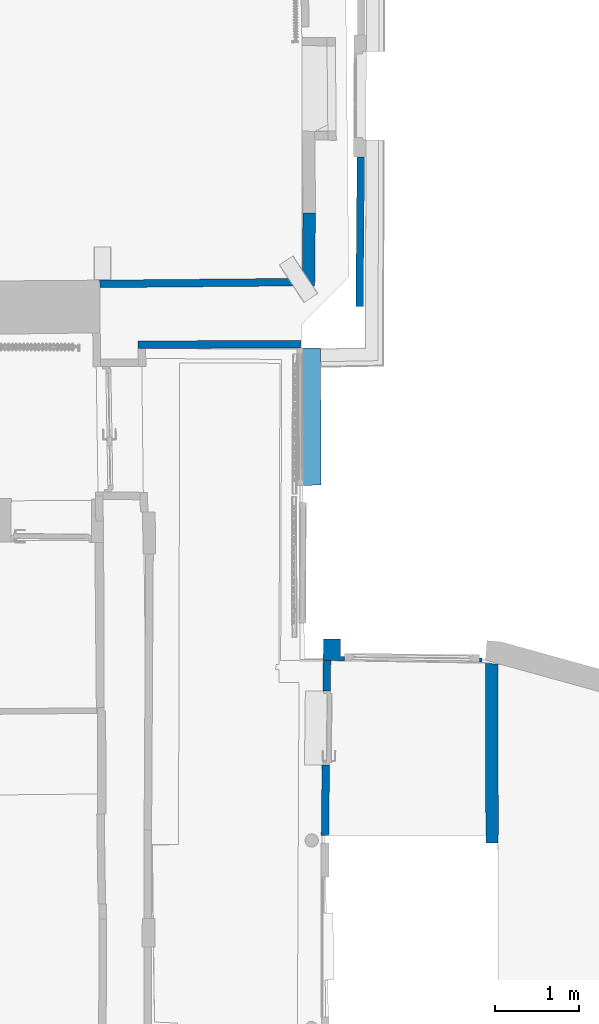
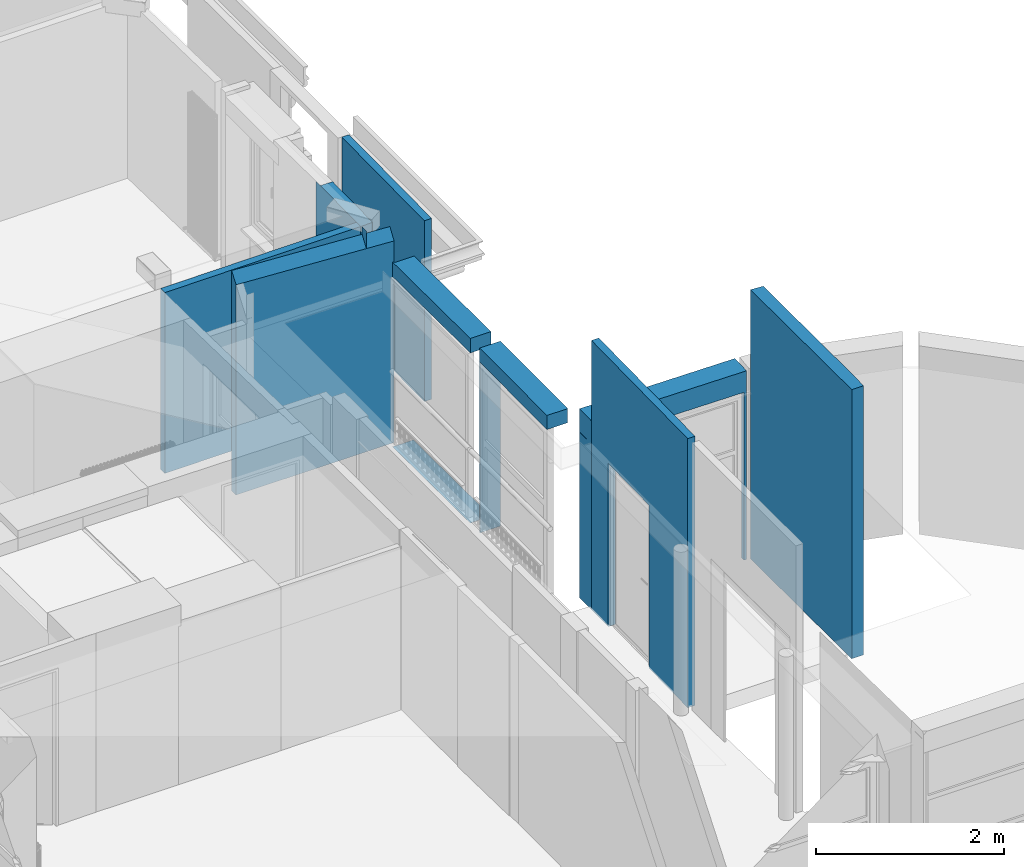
# One storey, part 18 of 72: 9 walls, 4 openings.
"""IFC2X3 building model written with IfcOpenShell, lengths in centimetres."""

from ifc_helpers import new_model, entity, si_unit, converted_unit, direction, frame, origin, origin_with_axes, origin_2d_with_axis, place, context, subcontext, project, spatial, polyline, rectangle, outline, extrude, clip, bounded_halfspace, faceted_brep, shape, material, layer, layer_set, layer_usage, type_object, element, save


model = new_model("IFC2X3")

# Units and contexts
model_context = context("Model", 3, precision=0.0001, world=origin(), true_north=direction((0.225632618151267, 0.974212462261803, 0.0)))
body_context = subcontext(model_context, "Body", "Model", "MODEL_VIEW")
footprint_context = subcontext(model_context, "FootPrint", "Model", "MODEL_VIEW")
profile_context = subcontext(model_context, "Profile", "Model", "MODEL_VIEW")
ifc_project = project(units=[si_unit("LENGTHUNIT", "METRE", prefix="CENTI"), si_unit("AREAUNIT", "SQUARE_METRE", prefix="CENTI"), si_unit("VOLUMEUNIT", "CUBIC_METRE", prefix="CENTI"), converted_unit("PLANEANGLEUNIT", "DEGREE", entity("IfcRatioMeasure", 0.0174532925), si_unit("PLANEANGLEUNIT", "RADIAN"), dimensions=[0, 0, 0, 0, 0, 0, 0])], contexts=[model_context])

# Site, building, storey
site_placement = place(None, origin_with_axes())
site = spatial("IfcSite", under=ifc_project, at=site_placement, Name="Default Site", CompositionType="ELEMENT")
building_placement = place(site_placement, origin_with_axes())
building = spatial("IfcBuilding", under=site, at=building_placement, Name="Default Building", CompositionType="ELEMENT")
storey_placement = place(building_placement, frame((0.0, 0.0, 853.910374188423), z_axis=(0.0, 0.0, 1.0), x_axis=(1.0, 0.0, 0.0)))
storey = spatial("IfcBuildingStorey", under=building, at=storey_placement, Name="Niveau 2", CompositionType="ELEMENT", Elevation=853.910374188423)

# Wall, opening
ifc_material = material(Name="<aucun>")
ifc_layer_1 = layer(ifc_material, 26.0)
ifc_layer_set_1 = layer_set([ifc_layer_1], Name="default")
ifc_layer_usage_1 = layer_usage(ifc_layer_set_1, "AXIS2", "POSITIVE", -13.0)
wall_type_1 = type_object("IfcWallType", Name="default 260", PredefinedType="NOTDEFINED", material=ifc_layer_set_1)
wall_1_placement = place(storey_placement, frame((1291.15030565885, -210.44632109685, 7.8159700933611e-12), z_axis=(0.0, 0.0, 1.0), x_axis=(-0.999951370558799, 0.00986187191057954, 0.0)))
wall_1 = element("IfcWallStandardCase", 1, at=wall_1_placement, inside=storey, type_object=wall_type_1, material=ifc_layer_usage_1, Name="Enveloppe 537553", context=body_context, shape_type="Clipping", body=[
    clip(extrude(rectangle(XDim=26.0000371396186, YDim=189.785412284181, at=origin_2d_with_axis()), frame((96.6682236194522, -0.000186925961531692, 1.77635683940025e-13), z_axis=(0.0, 0.0, 1.0), x_axis=(1.40878318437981e-08, -1.0, 0.0)), (0.0, 0.0, 1.0), 244.999999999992), bounded_halfspace(frame((191.560929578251, 13.0000000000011, 214.999999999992), z_axis=(0.0, 0.0, -1.0), x_axis=(-1.0, 8.65800486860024e-14, 0.0)), True, frame((191.560929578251, 13.0000000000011, 214.999999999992), z_axis=(0.0, 0.0, 1.0), x_axis=(1.0, 0.0, 0.0)), polyline([(-0.150318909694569, -26.0), (1.77635683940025e-13, -26.0), (0.0, 0.0), (-0.0999999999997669, -4.44089209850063e-14), (-0.150318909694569, -26.0)]))),
])
opening_1_placement = place(wall_1_placement, frame((-1.77351466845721e-11, -2.8421709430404e-14, 3.5527136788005e-13), z_axis=(0.0, 0.0, 1.0), x_axis=(-1.0, -5.93969318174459e-15, 0.0)))
cartesian_point_1 = entity("IfcCartesianPoint", [0.0, 0.0, 218.0])
cartesian_point_2 = entity("IfcCartesianPoint", [-171.19581333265, -13.0])
element("IfcOpeningElement", 2, at=opening_1_placement, cuts=wall_1, Name="4294966493_11", ObjectType="Opening", shapes=[
    shape(body_context, "Body", "Brep", [faceted_brep([(-5.00004530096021, -32.9999935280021, 218.000007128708), (-166.195818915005, -32.9999935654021, 218.000007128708), (-166.195818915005, -32.9999935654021, -2.33888705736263e-05), (-5.00004530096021, -32.9999935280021, -2.33888705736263e-05), (2.5435651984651e-05, 32.9999991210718, -2.33888705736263e-05), (-171.195795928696, 32.9999990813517, -2.33888705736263e-05), (-171.195795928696, 32.9999990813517, 218.000007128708), (2.5435651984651e-05, 32.9999991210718, 218.000007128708), (-5.00004530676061, -7.99999300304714, -2.33888705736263e-05), (-5.00004530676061, -7.99999300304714, 218.000007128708), (-4.99997192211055, -7.99999300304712, 218.000007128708), (-4.99997192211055, -7.99999300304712, -2.33888705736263e-05), (4.15408170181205e-06, -7.99999300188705, -2.33888705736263e-05), (4.15408170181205e-06, -7.99999300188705, 218.000007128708), (4.15408170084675e-06, -7.99998884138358, 218.000007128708), (4.15408170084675e-06, -7.99998884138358, -2.33888705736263e-05), (4.14456904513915e-06, 32.9999991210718, -2.33888705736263e-05), (4.14456904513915e-06, 32.9999991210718, 218.000007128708), (-166.195818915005, -33.0000058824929, -2.33888705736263e-05), (-166.195840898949, -8.00000629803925, -2.33888705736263e-05), (-171.195816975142, -8.00001045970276, -2.33888705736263e-05), (-171.195795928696, 33.0000013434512, -2.33888705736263e-05), (-166.195818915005, -33.0000058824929, 218.000007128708), (-166.195818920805, -8.00000629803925, 218.000007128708), (-166.195818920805, -8.00000629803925, -2.33888705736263e-05), (-166.195840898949, -8.00000629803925, 218.000007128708), (-171.195816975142, -8.00000629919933, 218.000007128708), (-171.195816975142, -8.00000629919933, -2.33888705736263e-05), (-171.195816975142, -8.00001045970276, 218.000007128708), (-171.195816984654, 33.0000013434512, 218.000007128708), (-171.195816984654, 33.0000013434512, -2.33888705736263e-05), (-171.195795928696, 33.0000013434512, 218.000007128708)], [[[0, 1, 2, 3]], [[4, 5, 6, 7]], [[0, 3, 8, 9]], [[10, 11, 12, 13]], [[14, 15, 16, 17]], [[3, 18, 19, 20, 21, 4, 15, 11]], [[18, 22, 23, 24]], [[19, 25, 26, 27]], [[20, 28, 29, 30]], [[10, 14, 7, 31, 28, 25, 22, 0]]])]),
    shape(profile_context, "Profile", "GeometricCurveSet", [entity("IfcGeometricCurveSet", [entity("IfcPolyline", [cartesian_point_1, entity("IfcCartesianPoint", [0.0, 0.0, 0.0]), entity("IfcCartesianPoint", [-171.19581333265, -2.22044604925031e-14, 0.0]), entity("IfcCartesianPoint", [-171.19581333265, -2.22044604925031e-14, 218.0]), cartesian_point_1])])]),
    shape(footprint_context, "FootPrint", "GeometricCurveSet", [entity("IfcGeometricCurveSet", [entity("IfcPolyline", [cartesian_point_2, entity("IfcCartesianPoint", [0.0, -13.0]), entity("IfcCartesianPoint", [1.77635683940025e-13, 13.0]), entity("IfcCartesianPoint", [-171.19581333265, 13.0]), cartesian_point_2])])]),
])

# Walls
ifc_layer_2 = layer(ifc_material, 9.0)
ifc_layer_set_2 = layer_set([ifc_layer_2], Name="default")
ifc_layer_usage_2 = layer_usage(ifc_layer_set_2, "AXIS2", "POSITIVE", -4.5)
wall_type_2 = type_object("IfcWallType", Name="default 90", PredefinedType="NOTDEFINED", material=ifc_layer_set_2)
wall_2_placement = place(storey_placement, frame((887.191708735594, 155.93875116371, -1.95399252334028e-11), z_axis=(0.0, 0.0, 1.0), x_axis=(0.999997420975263, 0.00227113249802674, 0.0)))
solid = clip(clip(clip(clip(clip(clip(clip(clip(extrude(outline(polyline([(-9.22474455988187, 4.49999999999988), (-9.00273775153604, -4.50000000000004), (185.428438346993, -4.49999999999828), (185.520402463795, 4.50000000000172), (-9.22474455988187, 4.49999999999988)])), frame((0.0, 0.0, 1.97175609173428e-11), z_axis=(0.0, 0.0, 1.0), x_axis=(1.0, 0.0, 0.0)), (0.0, 0.0, 1.0), 286.44925318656), bounded_halfspace(frame((-9.22474455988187, 4.4999999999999, 286.449253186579), z_axis=(-0.032719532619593, 0.825914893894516, -0.562844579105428), x_axis=(0.998314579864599, 5.7293579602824e-15, -0.0580344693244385)), True, frame((-9.22474455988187, 4.4999999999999, 286.449253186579), z_axis=(0.0, 0.0, 1.0), x_axis=(1.0, 0.0, 0.0)), polyline([(1.77635683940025e-13, 0.0), (0.222006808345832, -8.9999999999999), (3.13726053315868, -8.99999999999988), (3.26087498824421, 4.44089209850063e-14), (1.77635683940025e-13, 0.0)]))), bounded_halfspace(frame((151.31113894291, -2.18897963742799, 267.301539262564), z_axis=(-0.032719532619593, 0.825914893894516, -0.562844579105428), x_axis=(-0.997237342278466, 0.010596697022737, 0.0735213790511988)), True, frame((151.31113894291, -2.18897963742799, 267.301539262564), z_axis=(0.0, 0.0, 1.0), x_axis=(1.0, 0.0, 0.0)), polyline([(-0.00436527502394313, -2.31102036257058), (34.1172994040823, -2.31102036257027), (34.137207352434, -0.362743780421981), (1.77635683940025e-13, 0.0), (-0.00436527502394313, -2.31102036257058)]))), bounded_halfspace(frame((151.382216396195, 4.50000000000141, 277.112777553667), z_axis=(-0.032719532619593, 0.825914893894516, -0.562844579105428), x_axis=(0.00575585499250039, 0.563292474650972, 0.826237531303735)), True, frame((151.382216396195, 4.50000000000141, 277.112777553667), z_axis=(0.0, 0.0, 1.0), x_axis=(1.0, 0.0, 0.0)), polyline([(-0.0710774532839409, -6.6889796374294), (34.0661298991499, -7.05172341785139), (34.1381860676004, 3.33066907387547e-13), (1.77635683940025e-13, 0.0), (-0.0710774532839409, -6.6889796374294)]))), bounded_halfspace(frame((151.306773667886, 4.50000000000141, 277.117163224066), z_axis=(-0.032719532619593, 0.825914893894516, -0.562844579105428), x_axis=(-0.998314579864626, 4.0463726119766e-14, 0.0580344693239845)), True, frame((151.306773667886, 4.50000000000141, 277.117163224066), z_axis=(0.0, 0.0, 1.0), x_axis=(1.0, 0.0, 0.0)), polyline([(0.00436527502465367, -6.6889796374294), (0.0754427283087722, 0.0), (0.0, 0.0), (0.00436527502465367, -6.6889796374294)]))), bounded_halfspace(frame((90.9918822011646, 4.50000000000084, 280.623415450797), z_axis=(-0.032719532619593, 0.825914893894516, -0.562844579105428), x_axis=(0.99797422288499, -0.00374446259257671, -0.0635092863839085)), True, frame((90.9918822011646, 4.50000000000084, 280.623415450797), z_axis=(0.0, 0.0, 1.0), x_axis=(1.0, 0.0, 0.0)), polyline([(-0.0989755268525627, -7.2061130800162), (60.3148914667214, -7.43278974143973), (60.3148914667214, 5.77315972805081e-13), (0.0, 0.0), (-0.0989755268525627, -7.2061130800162)]))), bounded_halfspace(frame((90.892906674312, -2.70611308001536, 270.054960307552), z_axis=(-0.032719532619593, 0.825914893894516, -0.562844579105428), x_axis=(2.97453034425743e-14, 0.563146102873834, 0.826357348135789)), True, frame((90.892906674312, -2.70611308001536, 270.054960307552), z_axis=(0.0, 0.0, 1.0), x_axis=(1.0, 0.0, 0.0)), polyline([(-0.0120388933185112, -0.876515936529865), (0.111563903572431, -0.878213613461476), (0.111563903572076, -1.79388691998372), (60.4138669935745, -1.79388691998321), (60.413866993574, -0.22667666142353), (0.0, 0.0), (-0.0120388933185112, -0.876515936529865)]))), bounded_halfspace(frame((0.312345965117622, -2.36624907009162, 275.819344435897), z_axis=(-0.032719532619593, 0.825914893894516, -0.562844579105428), x_axis=(0.998314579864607, 2.09571943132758e-14, -0.0580344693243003)), True, frame((0.312345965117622, -2.36624907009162, 275.819344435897), z_axis=(0.0, 0.0, 1.0), x_axis=(1.0, 0.0, 0.0)), polyline([(-0.0617023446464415, -2.13375092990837), (2.47234631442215, -2.13375092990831), (2.47378165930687, -0.00928178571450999), (1.77635683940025e-13, 0.0), (-0.0617023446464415, -2.13375092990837)]))), bounded_halfspace(frame((0.0, 0.987220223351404, 280.75836339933), z_axis=(-0.032719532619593, 0.825914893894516, -0.562844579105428), x_axis=(0.016295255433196, 0.563512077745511, 0.825947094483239)), True, frame((0.0, 0.987220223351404, 280.75836339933), z_axis=(0.0, 0.0, 1.0), x_axis=(1.0, 0.0, 0.0)), polyline([(8.88178419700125e-13, -5.48722022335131), (0.25064362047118, -5.4872202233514), (0.40939236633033, 0.00252714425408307), (0.0, 0.0), (8.88178419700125e-13, -5.48722022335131)])))
element("IfcWallStandardCase", 3, at=wall_2_placement, inside=storey, type_object=wall_type_2, material=ifc_layer_usage_2, Name="Enveloppe 463103", context=body_context, shape_type="Clipping", body=[
    clip(clip(clip(clip(clip(clip(clip(solid, bounded_halfspace(frame((-5.96386957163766, 4.49999999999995, 286.259690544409), z_axis=(-0.032719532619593, 0.825914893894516, -0.562844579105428), x_axis=(3.87610950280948e-14, 0.563146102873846, 0.826357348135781)), True, frame((-5.96386957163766, 4.49999999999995, 286.259690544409), z_axis=(0.0, 0.0, 1.0), x_axis=(1.0, 0.0, 0.0)), polyline([(-0.0487575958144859, -3.54989521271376), (5.96386957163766, -3.51277977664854), (5.96386957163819, 4.44089209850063e-14), (0.0, 0.0), (-0.0487575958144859, -3.54989521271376)]))), bounded_halfspace(frame((0.51089944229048, 4.50000000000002, 285.883296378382), z_axis=(-0.032719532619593, 0.825914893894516, -0.562844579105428), x_axis=(-0.016295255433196, -0.563512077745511, -0.825947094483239)), True, frame((0.51089944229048, 4.50000000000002, 285.883296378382), z_axis=(0.0, 0.0, 1.0), x_axis=(1.0, 0.0, 0.0)), polyline([(-0.19855347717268, -6.86624907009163), (2.27522818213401, -6.87553085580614), (2.27987346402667, 0.0), (1.77635683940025e-13, 0.0), (-0.19855347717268, -6.86624907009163)]))), bounded_halfspace(frame((2.79077290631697, 4.50000000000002, 285.750761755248), z_axis=(-0.032719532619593, 0.825914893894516, -0.562844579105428), x_axis=(-0.998314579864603, -9.3870224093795e-15, 0.0580344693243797)), True, frame((2.79077290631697, 4.50000000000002, 285.750761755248), z_axis=(0.0, 0.0, 1.0), x_axis=(1.0, 0.0, 0.0)), polyline([(-0.00464528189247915, -6.87553085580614), (88.102133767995, -7.20611308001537), (88.2011092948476, 8.21565038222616e-13), (1.77635683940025e-13, 0.0), (-0.00464528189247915, -6.87553085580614)]))), bounded_halfspace(frame((3.07439740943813, -2.37661246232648, 275.643572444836), z_axis=(-0.032719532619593, 0.825914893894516, -0.562844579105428), x_axis=(0.996856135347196, -0.013691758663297, -0.0780408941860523)), True, frame((3.07439740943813, -2.37661246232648, 275.643572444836), z_axis=(0.0, 0.0, 1.0), x_axis=(1.0, 0.0, 0.0)), polyline([(0.0, 0.0), (87.8064703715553, -1.20601655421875), (87.8185092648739, -0.329500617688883), (0.0, 0.0)]))), bounded_halfspace(frame((2.78612762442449, -2.37553085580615, 275.661917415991), z_axis=(-0.032719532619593, 0.825914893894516, -0.562844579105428), x_axis=(1.38001155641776e-13, 0.563146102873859, 0.826357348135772)), True, frame((2.78612762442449, -2.37553085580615, 275.661917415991), z_axis=(0.0, 0.0, 1.0), x_axis=(1.0, 0.0, 0.0)), polyline([(-0.00143534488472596, -2.12446914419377), (88.2183429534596, -2.12446914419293), (88.2183429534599, -1.20879583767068), (0.0, 2.22044604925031e-14), (-0.00143534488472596, -2.12446914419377)]))), bounded_halfspace(frame((-6.01262716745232, 0.950104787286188, 281.053429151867), z_axis=(-0.032719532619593, 0.825914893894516, -0.562844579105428), x_axis=(0.998314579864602, 1.02591546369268e-14, -0.0580344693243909)), True, frame((-6.01262716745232, 0.950104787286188, 281.053429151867), z_axis=(0.0, 0.0, 1.0), x_axis=(1.0, 0.0, 0.0)), polyline([(-0.0748568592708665, -5.45010478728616), (6.01262716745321, -5.45010478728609), (6.01262716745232, 0.0371154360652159), (1.77635683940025e-13, 0.0), (-0.0748568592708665, -5.45010478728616)]))), bounded_halfspace(frame((3.5527136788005e-13, 4.49999999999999, 285.912996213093), z_axis=(-0.032719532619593, 0.825914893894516, -0.562844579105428), x_axis=(-0.998314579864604, -2.33437401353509e-14, 0.0580344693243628)), True, frame((3.5527136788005e-13, 4.49999999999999, 285.912996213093), z_axis=(0.0, 0.0, 1.0), x_axis=(1.0, 0.0, 0.0)), polyline([(-3.5527136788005e-13, -3.51277977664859), (0.409392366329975, -3.51025263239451), (0.510899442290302, 2.22044604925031e-14), (1.77635683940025e-13, 0.0), (-3.5527136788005e-13, -3.51277977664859)]))),
])
ifc_layer_usage_3 = layer_usage(ifc_layer_set_2, "AXIS2", "POSITIVE", -4.5)
wall_3_placement = place(storey_placement, frame((1142.90481351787, 201.367194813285, -1.95399252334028e-11), z_axis=(0.0, 0.0, 1.0), x_axis=(0.00895001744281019, 0.999959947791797, 0.0)))
element("IfcWallStandardCase", 4, at=wall_3_placement, inside=storey, type_object=wall_type_2, material=ifc_layer_usage_3, Name="Enveloppe 463408", context=body_context, shape_type="SweptSolid", body=[
    extrude(rectangle(XDim=178.486611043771, YDim=8.99999999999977, at=origin_2d_with_axis()), frame((89.2928763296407, -1.77635683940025e-13, 1.98951966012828e-11), z_axis=(0.0, 0.0, 1.0), x_axis=(1.0, -6.45317133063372e-16, 0.0)), (0.0, 0.0, 1.0), 234.999999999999),
])

# Wall, opening
ifc_layer_usage_4 = layer_usage(ifc_layer_set_2, "AXIS2", "POSITIVE", -4.5)
wall_4_placement = place(storey_placement, frame((1101.60300583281, -430.729129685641, 1.13686837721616e-11), z_axis=(0.0, 0.0, 1.0), x_axis=(0.0117970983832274, 0.999930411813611, 0.0)))
wall_4 = element("IfcWallStandardCase", 5, at=wall_4_placement, inside=storey, type_object=wall_type_2, material=ifc_layer_usage_4, Name="Enveloppe 1533952", context=body_context, shape_type="Clipping", body=[
    clip(extrude(outline(polyline([(-8.88178419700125e-14, 4.50000000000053), (0.12749142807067, -4.49999999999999), (209.150488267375, -4.49999999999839), (209.13307018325, 4.50000000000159), (-8.88178419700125e-14, 4.50000000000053)])), frame((0.0, 0.0, -1.10134124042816e-11), z_axis=(0.0, 0.0, 1.0), x_axis=(1.0, 0.0, 0.0)), (0.0, 0.0, 1.0), 349.702416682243), bounded_halfspace(frame((209.135511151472, 3.23874107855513, 244.999999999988), z_axis=(0.0, 0.0, -1.0), x_axis=(-8.28850876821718e-15, -1.0, 0.0)), True, frame((209.135511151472, 3.23874107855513, 244.999999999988), z_axis=(0.0, 0.0, 1.0), x_axis=(1.0, 0.0, 0.0)), polyline([(4.44089209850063e-14, -7.73874107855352), (0.014977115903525, -7.73874107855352), (8.88178419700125e-14, 0.0), (4.44089209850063e-14, -7.73874107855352)]))),
])
opening_2_placement = place(wall_4_placement, frame((84.2768049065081, 2.27373675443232e-13, 1.99999999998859), z_axis=(0.0, 0.0, 1.0), x_axis=(-1.0, -6.76715627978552e-15, 0.0)))
cartesian_point_3 = entity("IfcCartesianPoint", [0.0, -1.77635683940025e-13, 210.0])
cartesian_point_4 = entity("IfcCartesianPoint", [-88.5658962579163, -4.50000000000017])
element("IfcOpeningElement", 6, at=opening_2_placement, cuts=wall_4, Name="4294966381_11", ObjectType="Opening", shapes=[
    shape(body_context, "Body", "SweptSolid", [extrude(outline(polyline([(8.88178419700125e-14, 210.0), (0.0, -1.99999999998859), (88.5658962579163, -1.99999999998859), (88.5658962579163, 210.0), (8.88178419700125e-14, 210.0)])), frame((0.0, -14.5, 0.0), z_axis=(0.0, 1.0, 0.0), x_axis=(-1.0, 0.0, 0.0)), (0.0, 0.0, 1.0), 29.0)]),
    shape(profile_context, "Profile", "GeometricCurveSet", [entity("IfcGeometricCurveSet", [entity("IfcPolyline", [cartesian_point_3, entity("IfcCartesianPoint", [4.44089209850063e-14, -1.77635683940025e-13, 0.0]), entity("IfcCartesianPoint", [-88.5658962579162, 0.0, 0.0]), entity("IfcCartesianPoint", [-88.5658962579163, 0.0, 210.0]), cartesian_point_3])])]),
    shape(footprint_context, "FootPrint", "GeometricCurveSet", [entity("IfcGeometricCurveSet", [entity("IfcPolyline", [cartesian_point_4, entity("IfcCartesianPoint", [0.0, -4.50000000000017]), entity("IfcCartesianPoint", [4.44089209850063e-14, 4.49999999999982]), entity("IfcCartesianPoint", [-88.5658962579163, 4.49999999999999]), cartesian_point_4])])]),
])

# Walls
ifc_layer_usage_5 = layer_usage(ifc_layer_set_2, "AXIS2", "POSITIVE", -4.5)
wall_5_placement = place(storey_placement, frame((823.296174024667, 228.407263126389, 1.4210854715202e-12), z_axis=(0.0, 0.0, 1.0), x_axis=(0.999960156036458, 0.00892672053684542, 0.0)))
element("IfcWallStandardCase", 7, at=wall_5_placement, inside=storey, type_object=wall_type_2, material=ifc_layer_usage_5, Name="Enveloppe 150048", context=body_context, shape_type="SweptSolid", body=[
    extrude(outline(polyline([(9.24668364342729, 4.50000000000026), (9.24668364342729, -4.49999999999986), (251.018308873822, -4.49999999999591), (251.189899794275, 4.50000000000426), (9.24668364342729, 4.50000000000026)])), origin_with_axes(), (0.0, 0.0, 1.0), 234.999999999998),
])
ifc_layer_3 = layer(ifc_material, 15.0)
ifc_layer_set_3 = layer_set([ifc_layer_3], Name="default")
ifc_layer_usage_6 = layer_usage(ifc_layer_set_3, "AXIS2", "POSITIVE", -7.5)
wall_type_3 = type_object("IfcWallType", Name="default 150", PredefinedType="NOTDEFINED", material=ifc_layer_set_3)
wall_6_placement = place(storey_placement, frame((1301.27312909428, -430.186707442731, 8.17124146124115e-12), z_axis=(0.0, 0.0, 1.0), x_axis=(-0.00316523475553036, 0.999994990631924, 0.0)))
element("IfcWallStandardCase", 8, at=wall_6_placement, inside=storey, type_object=wall_type_3, material=ifc_layer_usage_6, Name="Enveloppe 730483", context=body_context, shape_type="SweptSolid", body=[
    extrude(outline(polyline([(205.537870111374, 7.50000000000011), (-9.00000286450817, 7.49999999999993), (-9.00421900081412, 2.21559763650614), (-9.10421836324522, 2.21591415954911), (-9.11782779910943, -6.78406492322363), (-8.88178419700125e-14, -6.79802851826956), (0.0, -7.49999999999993), (204.317028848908, -7.49999999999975), (205.537870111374, 7.50000000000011)])), frame((0.0, 0.0, -3.5527136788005e-13), z_axis=(0.0, 0.0, 1.0), x_axis=(1.0, 0.0, 0.0)), (0.0, 0.0, 1.0), 349.702416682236),
])
ifc_layer_usage_7 = layer_usage(ifc_layer_set_3, "AXIS2", "POSITIVE", -7.5)
wall_7_placement = place(storey_placement, frame((1081.78791703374, 220.51334272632, 1.4210854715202e-12), z_axis=(0.0, 0.0, 1.0), x_axis=(0.010136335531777, 0.999948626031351, 0.0)))
element("IfcWallStandardCase", 9, at=wall_7_placement, inside=storey, type_object=wall_type_3, material=ifc_layer_usage_7, Name="Enveloppe 150043", context=body_context, shape_type="SweptSolid", body=[
    extrude(outline(polyline([(5.55913306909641, 7.50000000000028), (5.84511793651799, -7.49999999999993), (92.6423039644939, -7.49999999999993), (92.642303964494, 7.27962336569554), (102.628514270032, 7.50000000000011), (5.55913306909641, 7.50000000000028)])), origin_with_axes(), (0.0, 0.0, 1.0), 234.999999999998),
])

# Wall, opening
ifc_layer_4 = layer(ifc_material, 25.5)
ifc_layer_set_4 = layer_set([ifc_layer_4], Name="default")
ifc_layer_usage_8 = layer_usage(ifc_layer_set_4, "AXIS2", "POSITIVE", -12.75)
wall_type_4 = type_object("IfcWallType", Name="default 255", PredefinedType="NOTDEFINED", material=ifc_layer_set_4)
wall_8_placement = place(storey_placement, frame((1083.47369991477, -176.791939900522, -5.00000000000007), z_axis=(0.0, 0.0, 1.0), x_axis=(0.00502234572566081, 0.999987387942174, 0.0)))
wall_8 = element("IfcWallStandardCase", 10, at=wall_8_placement, inside=storey, type_object=wall_type_4, material=ifc_layer_usage_8, Name="Enveloppe 728289", context=body_context, shape_type="SweptSolid", body=[
    extrude(rectangle(XDim=144.247514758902, YDim=25.4999999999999, at=origin_2d_with_axis()), frame((72.2010637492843, 0.00023335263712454, 1.06581410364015e-12), z_axis=(0.0, 0.0, 1.0), x_axis=(0.999999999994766, 3.23544758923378e-06, 0.0)), (0.0, 0.0, 1.0), 239.999999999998),
])
opening_3_placement = place(wall_8_placement, frame((-0.00707307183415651, 2.27373675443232e-13, -2.4297279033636e-05), z_axis=(0.0, 0.0, 1.0), x_axis=(-1.0, -1.99493199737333e-17, 0.0)))
cartesian_point_5 = entity("IfcCartesianPoint", [-2.22044604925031e-14, 0.0, 221.677255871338])
cartesian_point_6 = entity("IfcCartesianPoint", [-143.934555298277, -12.7499999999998])
element("IfcOpeningElement", 11, at=opening_3_placement, cuts=wall_8, Name="4294966484_11", ObjectType="Opening", shapes=[
    shape(body_context, "Body", "SweptSolid", [extrude(outline(polyline([(2.22044604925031e-14, 221.677255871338), (0.0, 0.0), (143.934555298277, 0.0), (143.934555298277, 221.677255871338), (2.22044604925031e-14, 221.677255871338)])), frame((0.0, -22.75, 0.0), z_axis=(0.0, 1.0, 0.0), x_axis=(-1.0, 0.0, 0.0)), (0.0, 0.0, 1.0), 45.5)]),
    shape(profile_context, "Profile", "GeometricCurveSet", [entity("IfcGeometricCurveSet", [entity("IfcPolyline", [cartesian_point_5, entity("IfcCartesianPoint", [0.0, 0.0, 0.0]), entity("IfcCartesianPoint", [-143.934555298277, 1.77635683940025e-13, 0.0]), entity("IfcCartesianPoint", [-143.934555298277, 1.77635683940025e-13, 221.677255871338]), cartesian_point_5])])]),
    shape(footprint_context, "FootPrint", "GeometricCurveSet", [entity("IfcGeometricCurveSet", [entity("IfcPolyline", [cartesian_point_6, entity("IfcCartesianPoint", [0.0, -12.7499999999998]), entity("IfcCartesianPoint", [-2.22044604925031e-14, 12.7500000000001]), entity("IfcCartesianPoint", [-143.934555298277, 12.7500000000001]), cartesian_point_6])])]),
])

ifc_layer_usage_9 = layer_usage(ifc_layer_set_4, "AXIS2", "POSITIVE", -12.75)
wall_9_placement = place(storey_placement, frame((1084.30038192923, -12.0708272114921, -4.99999999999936), z_axis=(0.0, 0.0, 1.0), x_axis=(-0.00479790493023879, 0.9999884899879, 0.0)))
wall_9 = element("IfcWallStandardCase", 12, at=wall_9_placement, inside=storey, type_object=wall_type_4, material=ifc_layer_usage_9, Name="Enveloppe 728294", context=body_context, shape_type="Clipping", body=[
    clip(clip(clip(clip(extrude(outline(polyline([(163.989545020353, 12.75), (3.23917248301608e-06, 12.7506751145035), (-1.11022302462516e-14, -12.75), (163.925111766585, -12.7500000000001), (163.989545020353, 12.75)])), frame((0.0, 0.0, 5.32907051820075e-13), z_axis=(0.0, 0.0, 1.0), x_axis=(1.0, 0.0, 0.0)), (0.0, 0.0, 1.0), 239.999999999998), bounded_halfspace(frame((163.983139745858, 10.2150589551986, 4.99999999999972), z_axis=(0.0, 0.0, -1.0), x_axis=(-0.999858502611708, 0.0168218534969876, 0.0)), True, frame((163.983139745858, 10.2150589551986, 4.99999999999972), z_axis=(0.0, 0.0, 1.0), x_axis=(1.0, 0.0, 0.0)), polyline([(-1.26178718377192, -22.9650589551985), (-0.0580279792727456, -22.9650589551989), (6.66133814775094e-14, 0.0), (-0.875169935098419, 0.0147240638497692), (-1.26178718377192, -22.9650589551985)]))), bounded_halfspace(frame((162.986722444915, 10.2318229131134, 4.99999999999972), z_axis=(0.0, 0.0, -1.0), x_axis=(-0.0127443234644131, -0.999918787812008, 0.0)), True, frame((162.986722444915, 10.2318229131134, 4.99999999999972), z_axis=(0.0, 0.0, 1.0), x_axis=(1.0, 0.0, 0.0)), polyline([(-0.292911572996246, -22.9818229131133), (-0.265369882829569, -22.9818229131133), (0.121247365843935, -0.00203989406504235), (2.22044604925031e-14, 0.0), (-0.292911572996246, -22.9818229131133)]))), bounded_halfspace(frame((163.107969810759, 10.2297830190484, 4.99999999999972), z_axis=(0.0, 0.0, -1.0), x_axis=(0.999858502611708, -0.0168218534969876, 0.0)), True, frame((163.107969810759, 10.2297830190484, 4.99999999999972), z_axis=(0.0, 0.0, 1.0), x_axis=(1.0, 0.0, 0.0)), polyline([(-0.799609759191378, 0.0134528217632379), (0.875169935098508, -0.0147240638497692), (0.876859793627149, 0.654051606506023), (-0.799609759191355, 0.675418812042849), (-0.799609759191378, 0.0134528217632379)]))), bounded_halfspace(frame((162.986722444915, 10.2318229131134, 4.99999999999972), z_axis=(0.0, 0.0, -1.0), x_axis=(-0.999858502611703, 0.0168218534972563, 0.0)), True, frame((162.986722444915, 10.2318229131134, 4.99999999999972), z_axis=(0.0, 0.0, 1.0), x_axis=(1.0, 0.0, 0.0)), polyline([(-0.678362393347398, -22.9818229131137), (-0.292911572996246, -22.9818229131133), (2.22044604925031e-14, 0.0), (-0.678362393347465, 0.0114129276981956), (-0.678362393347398, -22.9818229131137)]))),
])
opening_4_placement = place(wall_9_placement, frame((2.1316282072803e-14, 0.0, 0.253077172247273), z_axis=(0.0, 0.0, 1.0), x_axis=(-1.0, 7.71951946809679e-17, 0.0)))
cartesian_point_7 = entity("IfcCartesianPoint", [-1.38777878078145e-14, 0.0, 220.938131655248])
cartesian_point_8 = entity("IfcCartesianPoint", [-164.223467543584, -12.75])
element("IfcOpeningElement", 13, at=opening_4_placement, cuts=wall_9, Name="4294966485_11", ObjectType="Opening", shapes=[
    shape(body_context, "Body", "SweptSolid", [extrude(outline(polyline([(1.38777878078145e-14, 220.938131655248), (-2.77555756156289e-15, 0.0), (164.223467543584, 0.0), (164.223467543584, 220.938131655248), (1.38777878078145e-14, 220.938131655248)])), frame((0.0, -22.75, 0.0), z_axis=(0.0, 1.0, 0.0), x_axis=(-1.0, 0.0, 0.0)), (0.0, 0.0, 1.0), 45.5)]),
    shape(profile_context, "Profile", "GeometricCurveSet", [entity("IfcGeometricCurveSet", [entity("IfcPolyline", [cartesian_point_7, entity("IfcCartesianPoint", [0.0, 0.0, 0.0]), entity("IfcCartesianPoint", [-164.223467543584, 0.0, 0.0]), entity("IfcCartesianPoint", [-164.223467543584, 0.0, 220.938131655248]), cartesian_point_7])])]),
    shape(footprint_context, "FootPrint", "GeometricCurveSet", [entity("IfcGeometricCurveSet", [entity("IfcPolyline", [cartesian_point_8, entity("IfcCartesianPoint", [2.77555756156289e-15, -12.7499999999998]), entity("IfcCartesianPoint", [0.0, 12.75]), entity("IfcCartesianPoint", [-164.223467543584, 12.75]), cartesian_point_8])])]),
])

save(model, "model.ifc")
